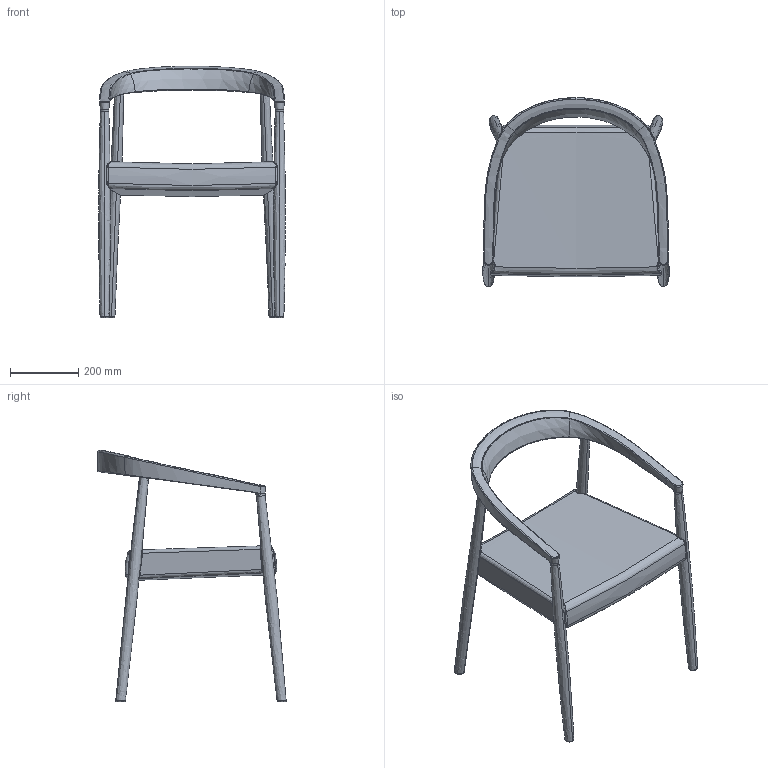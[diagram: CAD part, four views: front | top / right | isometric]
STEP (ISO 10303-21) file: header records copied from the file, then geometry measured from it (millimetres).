
FILE_DESCRIPTION(/* description */ (''),/* implementation_level */ '2;1');
FILE_NAME(/* name */ 'KINOSH~1',/* time_stamp */ '2019-07-19T11:44:46+09:00',/* author */ (''),/* organization */ (''),/* preprocessor_version */ 'ST-DEVELOPER v15',/* originating_system */ '',/* authorisation */ '');
FILE_SCHEMA (('AUTOMOTIVE_DESIGN'));
Length unit declared in the file: millimetre
Products named in the file (2): Document; ﾌﾞﾛｯｸ 113
Assembly tree (1 placements, depth 2):
  Document
    ﾌﾞﾛｯｸ 113
Bounding box: 545.41 x 549.99 x 735.24 mm (x, y, z)
Surface area: 1072725.1 mm2 (no closed solid volume)
Topology: 0 solids, 6 shells, 178 faces, 493 edges, 279 vertices
Faces by surface type: bspline 164, plane 14
Entity records: 26547 total; most frequent: CARTESIAN_POINT 23944, ORIENTED_EDGE 878, EDGE_CURVE 489, B_SPLINE_CURVE_WITH_KNOTS 283, VERTEX_POINT 279, ADVANCED_FACE 178, FACE_OUTER_BOUND 178, EDGE_LOOP 178
